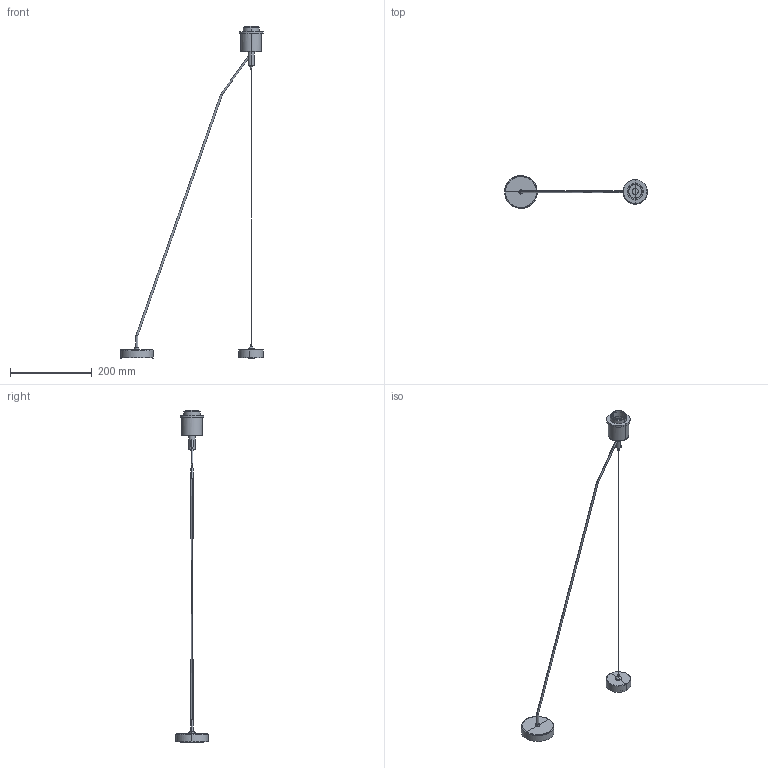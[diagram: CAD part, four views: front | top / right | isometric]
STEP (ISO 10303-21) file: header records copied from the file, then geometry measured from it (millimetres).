
FILE_DESCRIPTION(/* description */ (''),/* implementation_level */ '2;1');
FILE_NAME(/* name */ 'C:\Users\FrancoSartori\Documents\FARO\03_Completados\MAMBO_SAMBA_CONGA\03_Publicación\00_Publicado\64314.stp',/* time_stamp */ '2021-04-22T09:08:28+02:00',/* author */ ('FrancoSartori'),/* organization */ (''),/* preprocessor_version */ 'ST-DEVELOPER v18.1',/* originating_system */ 'AutoCAD Mechanical',/* authorisation */ '');
FILE_SCHEMA (('AUTOMOTIVE_DESIGN { 1 0 10303 214 3 1 1 }'));
Length unit declared in the file: millimetre
Products named in the file (2): Product; 64314_STR - STR-686879-Export
Assembly tree (1 placements, depth 2):
  Product
    64314_STR - STR-686879-Export
Bounding box: 349.96 x 80 x 813.65 mm (x, y, z)
Volume: 90362.9 mm3; surface area: 91762.1 mm2
Topology: 9 solids, 10 shells, 123 faces, 283 edges, 168 vertices
Faces by surface type: plane 55, cylinder 50, torus 10, cone 4, bspline 4
Entity records: 4627 total; most frequent: CARTESIAN_POINT 1883, ORIENTED_EDGE 562, DIRECTION 549, EDGE_CURVE 283, AXIS2_PLACEMENT_3D 222, VERTEX_POINT 168, FACE_OUTER_BOUND 123, EDGE_LOOP 123
